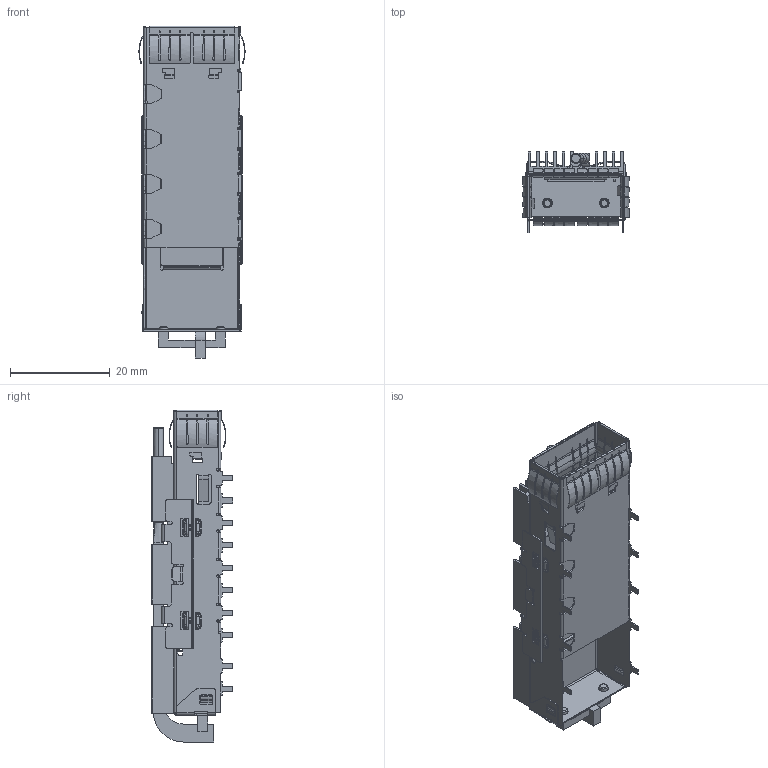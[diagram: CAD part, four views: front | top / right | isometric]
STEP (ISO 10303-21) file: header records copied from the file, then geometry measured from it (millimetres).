
FILE_DESCRIPTION((''),'2;1');
FILE_NAME('3D-CUSTOMER_DRAWING-Q112_CAGE_P','2026-06-22T17:51:23',('39002408'),(''),'CREO PARAMETRIC BY PTC INC, 2019471','CREO PARAMETRIC BY PTC INC, 2019471','');
FILE_SCHEMA(('CONFIG_CONTROL_DESIGN'));
Products named in the file (1): 3D-CUSTOMER_DRAWING-Q112_CAGE_P
Bounding box: 21.26 x 16.25 x 66.53 mm (x, y, z)
Surface area: 14064.8 mm2 (no closed solid volume)
Topology: 0 solids, 8 shells, 2803 faces, 7276 edges, 4384 vertices
Faces by surface type: plane 1553, cylinder 953, bspline 252, sphere 32, torus 6, cone 5, extrusion 2
Entity records: 92489 total; most frequent: CARTESIAN_POINT 25269, ORIENTED_EDGE 14484, DIRECTION 13337, EDGE_CURVE 7242, VECTOR 4897, LINE 4895, VERTEX_POINT 4383, AXIS2_PLACEMENT_3D 4220
